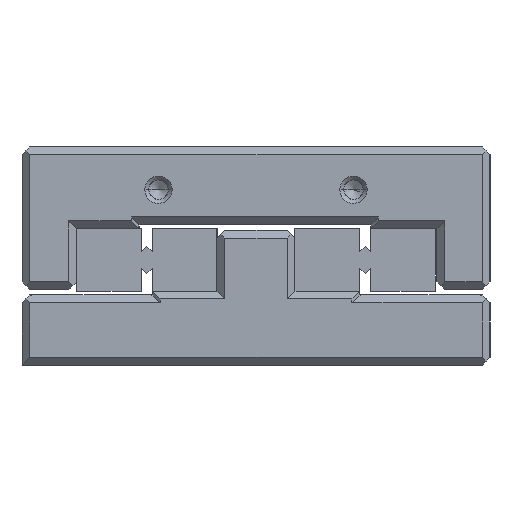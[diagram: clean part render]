
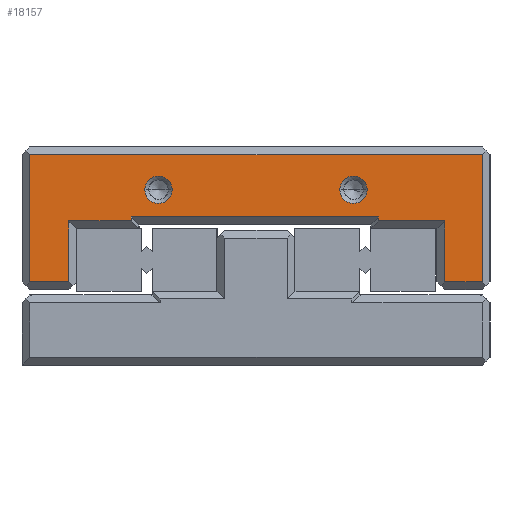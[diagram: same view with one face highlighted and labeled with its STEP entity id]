
A CAD part, left-side view. The second image highlights one B-rep face of the part: STEP entity #18157.
In plain terms, the highlighted planar face has unit normal (-1, 0, 0) as drawn and (1, 0, 0) by its records, which use the part's own axes.
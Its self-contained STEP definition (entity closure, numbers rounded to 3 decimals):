
#13462=CARTESIAN_POINT('',(102.5,14.25,5.5));
#13463=CARTESIAN_POINT('',(102.5,14.25,5.322));
#13464=CARTESIAN_POINT('',(102.5,14.199,4.978));
#13465=CARTESIAN_POINT('',(102.5,13.95,4.465));
#13466=CARTESIAN_POINT('',(102.5,13.543,4.057));
#13467=CARTESIAN_POINT('',(102.5,13.04,3.806));
#13468=CARTESIAN_POINT('',(102.5,12.504,3.723));
#13469=CARTESIAN_POINT('',(102.5,11.972,3.803));
#13470=CARTESIAN_POINT('',(102.5,11.473,4.044));
#13471=CARTESIAN_POINT('',(102.5,11.062,4.454));
#13472=CARTESIAN_POINT('',(102.5,10.81,4.943));
#13473=CARTESIAN_POINT('',(102.5,10.75,5.307));
#13474=CARTESIAN_POINT('',(102.5,10.75,5.5));
#13476=CARTESIAN_POINT('',(102.5,10.75,5.5));
#13477=CARTESIAN_POINT('',(102.5,10.75,5.678));
#13478=CARTESIAN_POINT('',(102.5,10.801,6.022));
#13479=CARTESIAN_POINT('',(102.5,11.05,6.535));
#13480=CARTESIAN_POINT('',(102.5,11.457,6.943));
#13481=CARTESIAN_POINT('',(102.5,11.96,7.194));
#13482=CARTESIAN_POINT('',(102.5,12.496,7.277));
#13483=CARTESIAN_POINT('',(102.5,13.028,7.197));
#13484=CARTESIAN_POINT('',(102.5,13.527,6.956));
#13485=CARTESIAN_POINT('',(102.5,13.938,6.546));
#13486=CARTESIAN_POINT('',(102.5,14.19,6.057));
#13487=CARTESIAN_POINT('',(102.5,14.25,5.693));
#13488=CARTESIAN_POINT('',(102.5,14.25,5.5));
#13490=CARTESIAN_POINT('',(102.5,-14.25,
5.5));
#13491=CARTESIAN_POINT('',(102.5,-14.25,
5.678));
#13492=CARTESIAN_POINT('',(102.5,-14.199,
6.022));
#13493=CARTESIAN_POINT('',(102.5,-13.95,
6.535));
#13494=CARTESIAN_POINT('',(102.5,-13.543,
6.943));
#13495=CARTESIAN_POINT('',(102.5,-13.04,
7.194));
#13496=CARTESIAN_POINT('',(102.5,-12.504,
7.277));
#13497=CARTESIAN_POINT('',(102.5,-11.972,
7.197));
#13498=CARTESIAN_POINT('',(102.5,-11.473,
6.956));
#13499=CARTESIAN_POINT('',(102.5,-11.062,
6.546));
#13500=CARTESIAN_POINT('',(102.5,-10.81,
6.057));
#13501=CARTESIAN_POINT('',(102.5,-10.75,
5.693));
#13502=CARTESIAN_POINT('',(102.5,-10.75,
5.5));
#13504=CARTESIAN_POINT('',(102.5,-10.75,
5.5));
#13505=CARTESIAN_POINT('',(102.5,-10.75,
5.322));
#13506=CARTESIAN_POINT('',(102.5,-10.801,
4.978));
#13507=CARTESIAN_POINT('',(102.5,-11.05,
4.465));
#13508=CARTESIAN_POINT('',(102.5,-11.457,
4.057));
#13509=CARTESIAN_POINT('',(102.5,-11.96,
3.806));
#13510=CARTESIAN_POINT('',(102.5,-12.496,
3.723));
#13511=CARTESIAN_POINT('',(102.5,-13.028,
3.803));
#13512=CARTESIAN_POINT('',(102.5,-13.527,
4.044));
#13513=CARTESIAN_POINT('',(102.5,-13.938,
4.454));
#13514=CARTESIAN_POINT('',(102.5,-14.19,
4.943));
#13515=CARTESIAN_POINT('',(102.5,-14.25,
5.307));
#13516=CARTESIAN_POINT('',(102.5,-14.25,
5.5));
#13518=DIRECTION('',(0.,1.,0.));
#13519=VECTOR('',#13518,4.8);
#13520=CARTESIAN_POINT('',(102.5,-29.,17.3));
#13521=LINE('',#13520,#13519);
#13522=DIRECTION('',(0.,0.,1.));
#13523=VECTOR('',#13522,7.8);
#13524=CARTESIAN_POINT('',(102.5,-24.2,9.5));
#13525=LINE('',#13524,#13523);
#13526=DIRECTION('',(0.,-1.,0.));
#13527=VECTOR('',#13526,8.5);
#13528=CARTESIAN_POINT('',(102.5,-15.7,9.5));
#13529=LINE('',#13528,#13527);
#13530=DIRECTION('',(0.,0.,1.));
#13531=VECTOR('',#13530,0.5);
#13532=CARTESIAN_POINT('',(102.5,-15.7,9.));
#13533=LINE('',#13532,#13531);
#13534=DIRECTION('',(0.,-1.,0.));
#13535=VECTOR('',#13534,31.7);
#13536=CARTESIAN_POINT('',(102.5,16.,9.));
#13537=LINE('',#13536,#13535);
#13538=DIRECTION('',(0.,0.,-1.));
#13539=VECTOR('',#13538,0.5);
#13540=CARTESIAN_POINT('',(102.5,16.,9.5));
#13541=LINE('',#13540,#13539);
#13542=DIRECTION('',(0.,-1.,0.));
#13543=VECTOR('',#13542,8.);
#13544=CARTESIAN_POINT('',(102.5,24.,9.5));
#13545=LINE('',#13544,#13543);
#13546=DIRECTION('',(0.,0.,-1.));
#13547=VECTOR('',#13546,7.8);
#13548=CARTESIAN_POINT('',(102.5,24.,17.3));
#13549=LINE('',#13548,#13547);
#13550=DIRECTION('',(0.,1.,0.));
#13551=VECTOR('',#13550,5.);
#13552=CARTESIAN_POINT('',(102.5,24.,17.3));
#13553=LINE('',#13552,#13551);
#13554=DIRECTION('',(0.,0.,-1.));
#13555=VECTOR('',#13554,16.3);
#13556=CARTESIAN_POINT('',(102.5,29.,17.3));
#13557=LINE('',#13556,#13555);
#13558=DIRECTION('',(0.,-1.,0.));
#13559=VECTOR('',#13558,58.);
#13560=CARTESIAN_POINT('',(102.5,29.,1.));
#13561=LINE('',#13560,#13559);
#13562=DIRECTION('',(0.,0.,-1.));
#13563=VECTOR('',#13562,16.3);
#13564=CARTESIAN_POINT('',(102.5,-29.,17.3));
#13565=LINE('',#13564,#13563);
#15721=VERTEX_POINT('',#13462);
#15722=VERTEX_POINT('',#13474);
#15725=VERTEX_POINT('',#13490);
#15726=VERTEX_POINT('',#13502);
#15755=CARTESIAN_POINT('',(102.5,29.,1.));
#15756=CARTESIAN_POINT('',(102.5,-29.,1.));
#15757=VERTEX_POINT('',#15755);
#15758=VERTEX_POINT('',#15756);
#15763=CARTESIAN_POINT('',(102.5,29.,17.3));
#15764=VERTEX_POINT('',#15763);
#15923=CARTESIAN_POINT('',(102.5,-29.,17.3));
#15925=VERTEX_POINT('',#15923);
#15931=CARTESIAN_POINT('',(102.5,-24.2,17.3));
#15932=VERTEX_POINT('',#15931);
#15945=CARTESIAN_POINT('',(102.5,24.,17.3));
#15946=VERTEX_POINT('',#15945);
#15947=CARTESIAN_POINT('',(102.5,24.,9.5));
#15948=VERTEX_POINT('',#15947);
#15953=CARTESIAN_POINT('',(102.5,16.,9.5));
#15954=VERTEX_POINT('',#15953);
#15957=CARTESIAN_POINT('',(102.5,16.,9.));
#15958=VERTEX_POINT('',#15957);
#15961=CARTESIAN_POINT('',(102.5,-15.7,9.));
#15962=VERTEX_POINT('',#15961);
#15963=CARTESIAN_POINT('',(102.5,-15.7,9.5));
#15964=VERTEX_POINT('',#15963);
#15969=CARTESIAN_POINT('',(102.5,-24.2,9.5));
#15970=VERTEX_POINT('',#15969);
#18118=CARTESIAN_POINT('',(102.5,-30.,0.));
#18119=DIRECTION('',(1.,0.,0.));
#18120=DIRECTION('',(0.,1.,0.));
#18121=AXIS2_PLACEMENT_3D('',#18118,#18119,#18120);
#18122=PLANE('',#18121);
#18123=ORIENTED_EDGE('',*,*,#18097,.T.);
#18125=ORIENTED_EDGE('',*,*,#18124,.F.);
#18127=ORIENTED_EDGE('',*,*,#18126,.F.);
#18129=ORIENTED_EDGE('',*,*,#18128,.F.);
#18130=ORIENTED_EDGE('',*,*,#17555,.F.);
#18131=ORIENTED_EDGE('',*,*,#17571,.F.);
#18133=ORIENTED_EDGE('',*,*,#18132,.F.);
#18135=ORIENTED_EDGE('',*,*,#18134,.F.);
#18137=ORIENTED_EDGE('',*,*,#18136,.T.);
#18139=ORIENTED_EDGE('',*,*,#18138,.T.);
#18141=ORIENTED_EDGE('',*,*,#18140,.T.);
#18142=ORIENTED_EDGE('',*,*,#18108,.F.);
#18143=EDGE_LOOP('',(#18123,#18125,#18127,#18129,#18130,#18131,#18133,#18135,
#18137,#18139,#18141,#18142));
#18144=FACE_OUTER_BOUND('',#18143,.F.);
#18146=ORIENTED_EDGE('',*,*,#18145,.F.);
#18148=ORIENTED_EDGE('',*,*,#18147,.F.);
#18149=EDGE_LOOP('',(#18146,#18148));
#18150=FACE_BOUND('',#18149,.F.);
#18152=ORIENTED_EDGE('',*,*,#18151,.F.);
#18154=ORIENTED_EDGE('',*,*,#18153,.F.);
#18155=EDGE_LOOP('',(#18152,#18154));
#18156=FACE_BOUND('',#18155,.F.);
#18157=ADVANCED_FACE('',(#18144,#18150,#18156),#18122,.T.);
#13475=B_SPLINE_CURVE_WITH_KNOTS('',3,(#13462,#13463,#13464,#13465,#13466,
#13467,#13468,#13469,#13470,#13471,#13472,#13473,#13474),.UNSPECIFIED.,.F.,.F.,(
4,1,1,1,1,1,1,1,1,1,4),(0.,0.1,0.2,0.3,0.4,0.5,0.6,0.7,0.8,
0.9,1.),.UNSPECIFIED.);
#13489=B_SPLINE_CURVE_WITH_KNOTS('',3,(#13476,#13477,#13478,#13479,#13480,
#13481,#13482,#13483,#13484,#13485,#13486,#13487,#13488),.UNSPECIFIED.,.F.,.F.,(
4,1,1,1,1,1,1,1,1,1,4),(0.,0.1,0.2,0.3,0.4,0.5,0.6,0.7,0.8,
0.9,1.),.UNSPECIFIED.);
#13503=B_SPLINE_CURVE_WITH_KNOTS('',3,(#13490,#13491,#13492,#13493,#13494,
#13495,#13496,#13497,#13498,#13499,#13500,#13501,#13502),.UNSPECIFIED.,.F.,.F.,(
4,1,1,1,1,1,1,1,1,1,4),(0.,0.1,0.2,0.3,0.4,0.5,0.6,0.7,0.8,
0.9,1.),.UNSPECIFIED.);
#13517=B_SPLINE_CURVE_WITH_KNOTS('',3,(#13504,#13505,#13506,#13507,#13508,
#13509,#13510,#13511,#13512,#13513,#13514,#13515,#13516),.UNSPECIFIED.,.F.,.F.,(
4,1,1,1,1,1,1,1,1,1,4),(0.,0.1,0.2,0.3,0.4,0.5,0.6,0.7,0.8,
0.9,1.),.UNSPECIFIED.);
#17555=EDGE_CURVE('',#15958,#15962,#13537,.T.);
#17571=EDGE_CURVE('',#15954,#15958,#13541,.T.);
#18097=EDGE_CURVE('',#15925,#15932,#13521,.T.);
#18108=EDGE_CURVE('',#15925,#15758,#13565,.T.);
#18124=EDGE_CURVE('',#15970,#15932,#13525,.T.);
#18126=EDGE_CURVE('',#15964,#15970,#13529,.T.);
#18128=EDGE_CURVE('',#15962,#15964,#13533,.T.);
#18132=EDGE_CURVE('',#15948,#15954,#13545,.T.);
#18134=EDGE_CURVE('',#15946,#15948,#13549,.T.);
#18136=EDGE_CURVE('',#15946,#15764,#13553,.T.);
#18138=EDGE_CURVE('',#15764,#15757,#13557,.T.);
#18140=EDGE_CURVE('',#15757,#15758,#13561,.T.);
#18145=EDGE_CURVE('',#15725,#15726,#13503,.T.);
#18147=EDGE_CURVE('',#15726,#15725,#13517,.T.);
#18151=EDGE_CURVE('',#15721,#15722,#13475,.T.);
#18153=EDGE_CURVE('',#15722,#15721,#13489,.T.);
